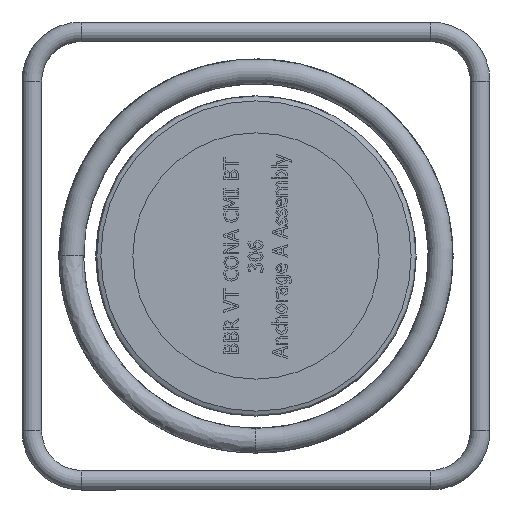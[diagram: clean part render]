
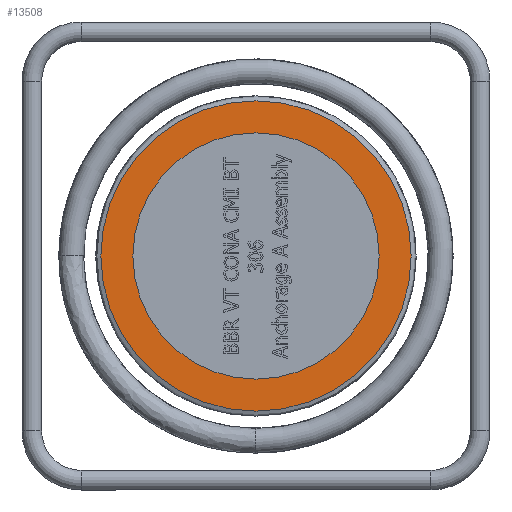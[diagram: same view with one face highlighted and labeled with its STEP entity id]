
A CAD part, left-side view. The second image highlights one B-rep face of the part: STEP entity #13508.
In plain terms, the highlighted planar face has unit normal (-1, 0, 0).
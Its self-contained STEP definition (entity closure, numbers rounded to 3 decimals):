
#3419=PLANE('',#13996);
#3546=FACE_BOUND('',#5026,.T.);
#4210=FACE_OUTER_BOUND('',#5025,.T.);
#5025=EDGE_LOOP('',(#11698));
#5026=EDGE_LOOP('',(#11699));
#5204=CIRCLE('',#13985,50.);
#5213=CIRCLE('',#13997,63.);
#6417=VERTEX_POINT('',#25348);
#6428=VERTEX_POINT('',#25373);
#8195=EDGE_CURVE('',#6417,#6417,#5204,.T.);
#8206=EDGE_CURVE('',#6428,#6428,#5213,.T.);
#11698=ORIENTED_EDGE('',*,*,#8206,.F.);
#11699=ORIENTED_EDGE('',*,*,#8195,.T.);
#13508=ADVANCED_FACE('',(#4210,#3546),#3419,.T.);
#13985=AXIS2_PLACEMENT_3D('',#25349,#15929,#15930);
#13996=AXIS2_PLACEMENT_3D('',#25372,#15953,#15954);
#13997=AXIS2_PLACEMENT_3D('',#25374,#15955,#15956);
#15929=DIRECTION('center_axis',(1.,0.,0.));
#15930=DIRECTION('ref_axis',(0.,-1.,0.));
#15953=DIRECTION('center_axis',(-1.,0.,0.));
#15954=DIRECTION('ref_axis',(0.,-1.,0.));
#15955=DIRECTION('center_axis',(1.,0.,0.));
#15956=DIRECTION('ref_axis',(0.,0.,
1.));
#25348=CARTESIAN_POINT('',(-90.115,0.,-50.));
#25349=CARTESIAN_POINT('Origin',(-90.115,0.,
0.));
#25372=CARTESIAN_POINT('Origin',(-90.115,0.,
-50.5));
#25373=CARTESIAN_POINT('',(-90.115,0.,-63.));
#25374=CARTESIAN_POINT('Origin',(-90.115,0.,
0.));
